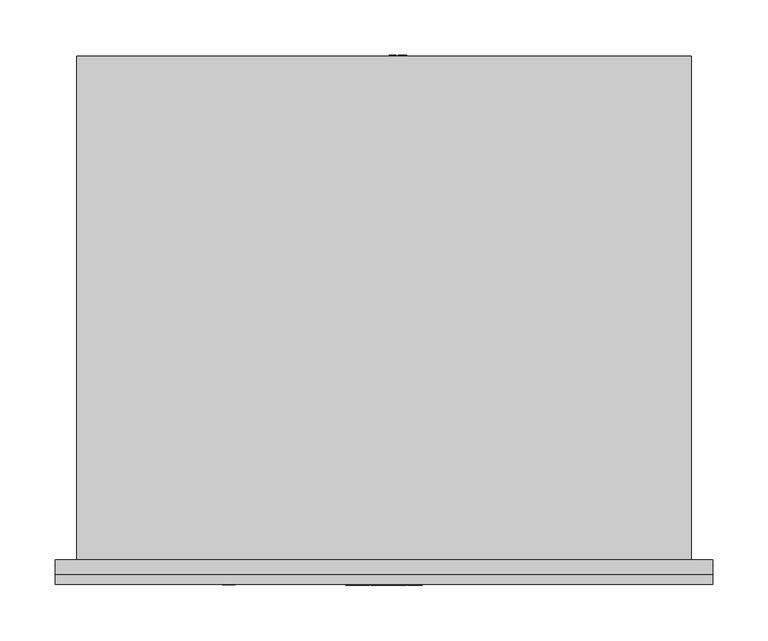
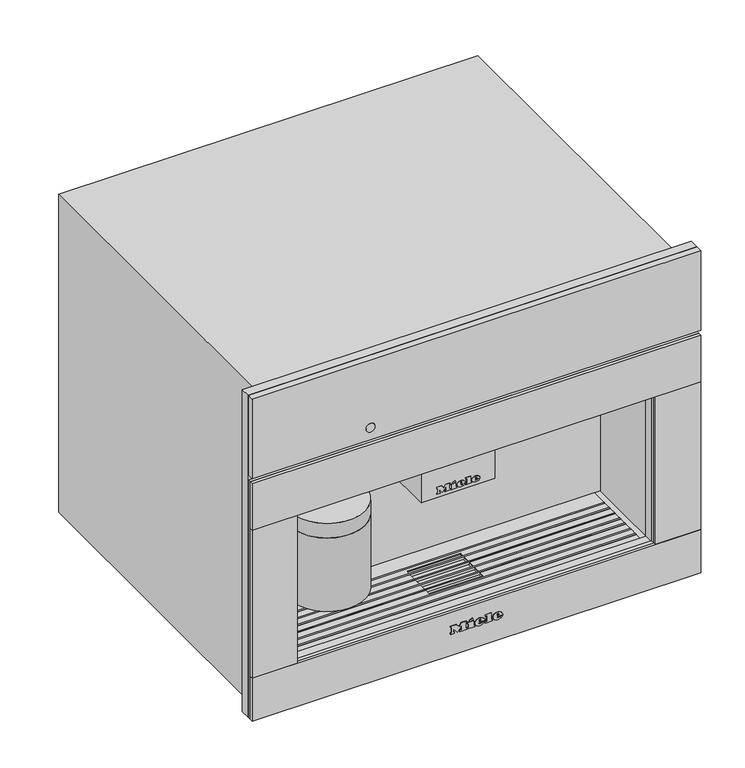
"""IFC4 building model written with IfcOpenShell, lengths in millimetres: proxy geometry, 11166510_PL_CVA7440_GRGR : 29744030_PL_11166510_CVA7440_GRGR."""

from ifc_helpers import new_model, si_unit, point, frame, frame_2d, origin, place, context, project, spatial, polyline, circle_curve, ellipse_curve, trimmed, segment, composite_curve, outline, extrude, faceted_brep, source, transform, mapped, element, save
from ifc_brep_helpers import plane_surface, cylinder_surface, revolved_surface, extruded_surface, advanced_brep


def specialty_equipment_c3889a7f(model_context):
    return source(origin(), model_context, "Body", "SolidModel", [
        extrude(outline(composite_curve([segment(trimmed(circle_curve(frame_2d((-14.0, 36.5)), 5.0), [point((-9.0, 36.5))], [point((-19.0, 36.5))], False, "CARTESIAN"), True, "CONTINUOUS"), segment(trimmed(circle_curve(frame_2d((-14.0, 36.5)), 5.0), [point((-19.0, 36.5))], [point((-9.0, 36.5))], False, "CARTESIAN"), True, "CONTINUOUS")], self_intersect=False)), frame((0.0, 0.0, 193.0), z_axis=(0.0, 0.0, 1.0), x_axis=(1.0, 0.0, 0.0)), (0.0, 0.0, 1.0), 5.0),
        extrude(outline(composite_curve([segment(trimmed(circle_curve(frame_2d((14.0, 36.5)), 5.0), [point((19.0, 36.5))], [point((9.0, 36.5))], False, "CARTESIAN"), True, "CONTINUOUS"), segment(trimmed(circle_curve(frame_2d((14.0, 36.5)), 5.0), [point((9.0, 36.5))], [point((19.0, 36.5))], False, "CARTESIAN"), True, "CONTINUOUS")], self_intersect=False)), frame((0.0, 0.0, 193.0), z_axis=(0.0, 0.0, 1.0), x_axis=(1.0, 0.0, 0.0)), (0.0, 0.0, 1.0), 5.0),
        extrude(outline(composite_curve([segment(trimmed(circle_curve(frame_2d((-156.5, 49.5)), 50.0), [point((-106.5, 49.5))], [point((-206.5, 49.5))], False, "CARTESIAN"), True, "CONTINUOUS"), segment(trimmed(circle_curve(frame_2d((-156.5, 49.5)), 50.0), [point((-206.5, 49.5))], [point((-106.5, 49.5))], False, "CARTESIAN"), True, "CONTINUOUS")], self_intersect=False)), frame((0.0, 0.0, 100.0), z_axis=(0.0, 0.0, 1.0), x_axis=(1.0, 0.0, 0.0)), (0.0, 0.0, 1.0), 103.0),
        extrude(outline(polyline([(-49.0, 95.0), (49.0, 95.0), (49.0, 20.0), (-49.0, 20.0), (-49.0, 95.0)])), frame((0.0, 0.0, 198.0), z_axis=(0.0, 0.0, 1.0), x_axis=(1.0, 0.0, 0.0)), (0.0, 0.0, 1.0), 75.0),
        extrude(outline(polyline([(455.5, 297.5), (455.5, -297.5), (4.0, -297.5), (4.0, 297.5), (455.5, 297.5)]), holes=[polyline([(273.0, 237.5), (63.0, 237.5), (63.0, -237.5), (273.0, -237.5), (273.0, 237.5)])]), frame((0.0, -13.0, 0.0), z_axis=(0.0, 1.0, 0.0), x_axis=(0.0, 0.0, 1.0)), (0.0, 0.0, 1.0), 13.0),
        extrude(outline(polyline([(97.0, 20.4012141), (107.045631, 20.4012141), (107.045631, 13.1809168), (105.7899271, 13.1809168), (105.7899271, 19.1455102), (102.8076304, 19.1455102), (102.8076304, 13.4948427), (101.5519266, 13.4948427), (101.5519266, 19.1455102), (98.2557039, 19.1455102), (98.2557039, 13.0239538), (97.0, 13.0239538), (97.0, 20.4012141)])), frame((0.0, 456.0, 0.0), z_axis=(0.0, 1.0, 0.0), x_axis=(0.0, 0.0, 1.0)), (0.0, 0.0, 1.0), 1.0),
        extrude(outline(polyline([(97.0, 11.140398), (107.045631, 11.140398), (107.045631, 9.8846941), (98.2557039, 9.8846941), (98.2557039, 4.8618786), (97.0, 4.8618786), (97.0, 11.140398)])), frame((0.0, 456.0, 0.0), z_axis=(0.0, 1.0, 0.0), x_axis=(0.0, 0.0, 1.0)), (0.0, 0.0, 1.0), 1.0),
        advanced_brep(
        [(55.0, 425.5, 102.0), (55.0, 410.5, 102.0), (20.5239538, 425.5, 102.0), (5.5239538, 410.5, 102.0), (20.5239538, 456.0, 102.0), (5.5239538, 456.0, 102.0)],
        [
            (0, 1, circle_curve(frame((55.0, 418.0, 102.0), z_axis=(1.0, 0.0, 0.0), x_axis=(0.0, -1.0, 0.0)), 7.5)),
            (1, 0, circle_curve(frame((55.0, 418.0, 102.0), z_axis=(1.0, 0.0, 0.0), x_axis=(0.0, -1.0, 0.0)), 7.5)),
            (0, 2),
            (2, 3, ellipse_curve(frame((13.0239538, 418.0, 102.0), z_axis=(0.7071067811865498, -0.7071067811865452, 0.0), x_axis=(0.7071067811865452, 0.7071067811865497, 0.0)), 10.6066017, 7.5)),
            (3, 1),
            (3, 2, ellipse_curve(frame((13.0239538, 418.0, 102.0), z_axis=(0.7071067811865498, -0.7071067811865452, 0.0), x_axis=(0.7071067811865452, 0.7071067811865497, 0.0)), 10.6066017, 7.5)),
            (4, 5, circle_curve(frame((13.0239538, 456.0, 102.0), z_axis=(0.0, 1.0, 0.0), x_axis=(-1.0, 0.0, 0.0)), 7.5)),
            (5, 4, circle_curve(frame((13.0239538, 456.0, 102.0), z_axis=(0.0, 1.0, 0.0), x_axis=(-1.0, 0.0, 0.0)), 7.5)),
            (2, 4),
            (5, 3),
        ],
        [
            plane_surface(frame((55.0, 418.0, 102.0), z_axis=(1.0, 0.0, 0.0), x_axis=(0.0, 0.0, 1.0))),
            cylinder_surface(frame((55.0, 418.0, 102.0), z_axis=(1.0, 0.0, 0.0), x_axis=(0.0, -1.0, 0.0)), 7.5),
            plane_surface(frame((13.0239538, 456.0, 102.0), z_axis=(0.0, 1.0, 0.0), x_axis=(0.0, 0.0, 1.0))),
            cylinder_surface(frame((13.0239538, 418.0, 102.0), z_axis=(0.0, -1.0, 0.0), x_axis=(-1.0, 0.0, 0.0)), 7.5),
        ],
        [
            (0, [[1, 2]]),
            (1, [[-1, 3, 4, 5]]),
            (1, [[-2, -5, 6, -3]]),
            (2, [[7, 8]]),
            (3, [[-4, 9, -8, 10]]),
            (3, [[-6, -10, -7, -9]]),
        ],
    ),
        advanced_brep(
        [(-110.0, 49.5, 252.0), (-203.0, 49.5, 252.0), (-206.5, 49.5, 223.5), (-106.5, 49.5, 223.5), (-110.0, 49.5, 273.0), (-203.0, 49.5, 273.0), (-156.5, 49.5, 273.0), (-106.5, 49.5, 203.0), (-206.5, 49.5, 203.0), (-156.5, 49.5, 203.0)],
        [
            (0, 1, circle_curve(frame((-156.5, 49.5, 252.0), z_axis=(0.0, 0.0, -1.0), x_axis=(-1.0, 0.0, 0.0)), 46.5)),
            (1, 2, circle_curve(frame((-206.7961166, 49.5, 238.0012775), z_axis=(0.0, 1.0, 0.0), x_axis=(-1.0, 0.0, 0.0)), 14.5043005)),
            (2, 3, circle_curve(frame((-156.5, 49.5, 223.5), z_axis=(0.0, 0.0, 1.0), x_axis=(-1.0, 0.0, 0.0)), 50.0)),
            (3, 0, circle_curve(frame((-106.2038834, 49.5, 238.0012775), z_axis=(0.0, 1.0, 0.0), x_axis=(1.0, 0.0, 0.0)), 14.5043005)),
            (4, 5, circle_curve(frame((-156.5, 49.5, 273.0), z_axis=(0.0, 0.0, -1.0), x_axis=(-1.0, 0.0, 0.0)), 46.5)),
            (5, 1),
            (0, 4),
            (6, 4),
            (4, 5, circle_curve(frame((-156.5, 49.5, 273.0), z_axis=(0.0, 0.0, 1.0), x_axis=(-1.0, 0.0, 0.0)), 46.5)),
            (5, 6),
            (7, 8, circle_curve(frame((-156.5, 49.5, 203.0), z_axis=(0.0, 0.0, -1.0), x_axis=(-1.0, 0.0, 0.0)), 50.0)),
            (8, 9),
            (9, 7),
            (8, 7, circle_curve(frame((-156.5, 49.5, 203.0), z_axis=(0.0, 0.0, -1.0), x_axis=(-1.0, 0.0, 0.0)), 50.0)),
            (2, 8),
            (7, 3),
            (2, 3, circle_curve(frame((-156.5, 49.5, 223.5), z_axis=(0.0, 0.0, -1.0), x_axis=(-1.0, 0.0, 0.0)), 50.0)),
            (1, 0, circle_curve(frame((-156.5, 49.5, 252.0), z_axis=(0.0, 0.0, -1.0), x_axis=(-1.0, 0.0, 0.0)), 46.5)),
        ],
        [
            revolved_surface(trimmed(ellipse_curve(frame((-206.7961166, 49.5, 238.0012775), z_axis=(0.0, -1.0, 0.0), x_axis=(-1.0, 0.0, 0.0)), 14.5043005, 14.5043005), [point((-206.5, 49.5, 223.5))], [point((-203.0, 49.5, 252.0))], True, "CARTESIAN"), (-156.5, 49.5, 388.7361736), (0.0, 0.0, 1.0)),
            cylinder_surface(frame((-156.5, 49.5, 388.7361736), z_axis=(0.0, 0.0, 1.0), x_axis=(-1.0, 0.0, 0.0)), 46.5),
            plane_surface(frame((-156.5, 49.5, 273.0), z_axis=(0.0, 0.0, 1.0), x_axis=(-1.0, 0.0, 0.0))),
            plane_surface(frame((-156.5, 49.5, 203.0), z_axis=(0.0, 0.0, -1.0), x_axis=(-1.0, 0.0, 0.0))),
            cylinder_surface(frame((-156.5, 49.5, 388.7361736), z_axis=(0.0, 0.0, 1.0), x_axis=(-1.0, 0.0, 0.0)), 50.0),
        ],
        [
            (0, [[1, 2, 3, 4]]),
            (1, [[5, 6, -1, 7]]),
            (2, [[8, 9, 10]]),
            (3, [[11, 12, 13]]),
            (3, [[14, -13, -12]]),
            (4, [[-3, 15, -11, 16]]),
            (4, [[17, -16, -14, -15]]),
            (0, [[18, -4, -17, -2]]),
            (1, [[-9, -7, -18, -6]]),
            (2, [[-10, -5, -8]]),
        ],
    ),
        faceted_brep([(229.5, 82.0925571, 60.0), (229.5, 80.0925571, 60.0), (-229.5, 80.0925571, 60.0), (-229.5, 82.0925571, 60.0), (229.5, 70.0550731, 60.0), (229.5, 68.0550731, 60.0), (-229.5, 68.0550731, 60.0), (-229.5, 70.0550731, 60.0), (229.5, 58.0175891, 60.0), (229.5, 56.0175891, 60.0), (-229.5, 56.0175891, 60.0), (-229.5, 58.0175891, 60.0), (229.5, 45.9801052, 60.0), (229.5, 43.9801052, 60.0), (-229.5, 43.9801052, 60.0), (-229.5, 45.9801052, 60.0), (229.5, 33.9426212, 60.0), (229.5, 31.9426212, 60.0), (-229.5, 31.9426212, 60.0), (-229.5, 33.9426212, 60.0), (229.5, 21.9776522, 60.0), (229.5, 19.9776522, 60.0), (-229.5, 19.9776522, 60.0), (-229.5, 21.9776522, 60.0), (229.5, 10.0, 60.0), (229.5, 8.0, 60.0), (-229.5, 8.0, 60.0), (-229.5, 10.0, 60.0), (-229.5, 45.9801052, 62.0), (-36.0, 45.9801052, 62.0), (-36.0, 45.9801052, 63.0), (-229.5, 45.9801052, 63.0), (-229.5, 45.9801052, 63.5), (229.5, 45.9801052, 63.5), (229.5, 45.9801052, 63.0), (36.0, 45.9801052, 63.0), (36.0, 45.9801052, 62.0), (229.5, 45.9801052, 62.0), (229.5, 19.9776522, 62.0), (229.5, 10.0, 62.0), (-229.5, 10.0, 62.0), (-229.5, 19.9776522, 62.0), (229.5, 43.9801052, 62.0), (229.5, 33.9426212, 62.0), (36.0, 33.9426212, 62.0), (36.0, 43.9801052, 62.0), (229.5, 56.0175891, 62.0), (36.0, 56.0175891, 62.0), (229.5, 68.0550731, 62.0), (229.5, 58.0175891, 62.0), (36.0, 58.0175891, 62.0), (36.0, 68.0550731, 62.0), (-229.5, 33.9426212, 62.0), (-229.5, 43.9801052, 62.0), (-36.0, 43.9801052, 62.0), (-36.0, 33.9426212, 62.0), (-229.5, 56.0175891, 62.0), (-36.0, 56.0175891, 62.0), (-229.5, 58.0175891, 62.0), (-229.5, 68.0550731, 62.0), (-36.0, 68.0550731, 62.0), (-36.0, 58.0175891, 62.0), (-229.5, 104.5, 62.0), (229.5, 104.5, 62.0), (229.5, 82.0925571, 62.0), (-229.5, 82.0925571, 62.0), (36.0, 76.0, 62.0), (-36.0, 76.0, 62.0), (-36.0, 70.0550731, 62.0), (-229.5, 70.0550731, 62.0), (-229.5, 80.0925571, 62.0), (229.5, 80.0925571, 62.0), (229.5, 70.0550731, 62.0), (36.0, 70.0550731, 62.0), (229.5, 0.0, 62.0), (-229.5, 0.0, 62.0), (-229.5, 8.0, 62.0), (229.5, 8.0, 62.0), (-36.0, 25.0, 62.0), (36.0, 25.0, 62.0), (36.0, 31.9426212, 62.0), (229.5, 31.9426212, 62.0), (229.5, 21.9776522, 62.0), (-229.5, 21.9776522, 62.0), (-229.5, 31.9426212, 62.0), (-36.0, 31.9426212, 62.0), (229.5, 104.5, 63.0), (-229.5, 104.5, 63.0), (-229.5, 82.0925571, 63.0), (229.5, 82.0925571, 63.0), (-229.5, 0.0, 63.0), (229.5, 0.0, 63.0), (229.5, 8.0, 63.0), (-229.5, 8.0, 63.0), (-36.0, 76.0, 63.0), (36.0, 76.0, 63.0), (36.0, 70.0550731, 63.0), (229.5, 70.0550731, 63.0), (229.5, 80.0925571, 63.0), (-229.5, 80.0925571, 63.0), (-229.5, 70.0550731, 63.0), (-36.0, 70.0550731, 63.0), (36.0, 25.0, 63.0), (-36.0, 25.0, 63.0), (-36.0, 31.9426212, 63.0), (-229.5, 31.9426212, 63.0), (-229.5, 21.9776522, 63.0), (229.5, 21.9776522, 63.0), (229.5, 31.9426212, 63.0), (36.0, 31.9426212, 63.0), (-229.5, 19.9776522, 63.0), (-229.5, 10.0, 63.0), (229.5, 10.0, 63.0), (229.5, 19.9776522, 63.0), (-229.5, 43.9801052, 63.0), (-229.5, 33.9426212, 63.0), (-36.0, 33.9426212, 63.0), (-36.0, 43.9801052, 63.0), (-229.5, 56.0175891, 63.0), (-36.0, 56.0175891, 63.0), (-229.5, 68.0550731, 63.0), (-229.5, 58.0175891, 63.0), (-36.0, 58.0175891, 63.0), (-36.0, 68.0550731, 63.0), (229.5, 33.9426212, 63.0), (229.5, 43.9801052, 63.0), (36.0, 43.9801052, 63.0), (36.0, 33.9426212, 63.0), (229.5, 56.0175891, 63.0), (36.0, 56.0175891, 63.0), (229.5, 58.0175891, 63.0), (229.5, 68.0550731, 63.0), (36.0, 68.0550731, 63.0), (36.0, 58.0175891, 63.0), (-229.5, 8.0, 63.5), (-229.5, 10.0, 63.5), (-229.5, 19.9776522, 63.5), (-229.5, 21.9776522, 63.5), (-229.5, 31.9426212, 63.5), (-229.5, 33.9426212, 63.5), (-229.5, 43.9801052, 63.5), (-229.5, 56.0175891, 63.5), (-229.5, 58.0175891, 63.5), (-229.5, 68.0550731, 63.5), (-229.5, 70.0550731, 63.5), (-229.5, 80.0925571, 63.5), (-229.5, 82.0925571, 63.5), (229.5, 82.0925571, 63.5), (229.5, 80.0925571, 63.5), (229.5, 70.0550731, 63.5), (229.5, 68.0550731, 63.5), (229.5, 58.0175891, 63.5), (229.5, 56.0175891, 63.5), (229.5, 43.9801052, 63.5), (229.5, 33.9426212, 63.5), (229.5, 31.9426212, 63.5), (229.5, 21.9776522, 63.5), (229.5, 19.9776522, 63.5), (229.5, 10.0, 63.5), (229.5, 8.0, 63.5)], [[[0, 1, 2, 3]], [[4, 5, 6, 7]], [[8, 9, 10, 11]], [[12, 13, 14, 15]], [[16, 17, 18, 19]], [[20, 21, 22, 23]], [[24, 25, 26, 27]], [[12, 15, 28, 29, 30, 31, 32, 33, 34, 35, 36, 37]], [[38, 39, 40, 41]], [[42, 43, 44, 45]], [[46, 37, 36, 47]], [[48, 49, 50, 51]], [[52, 53, 54, 55]], [[28, 56, 57, 29]], [[58, 59, 60, 61]], [[62, 63, 64, 65]], [[66, 67, 68, 69, 70, 71, 72, 73]], [[74, 75, 76, 77]], [[78, 79, 80, 81, 82, 83, 84, 85]], [[86, 87, 88, 89]], [[90, 91, 92, 93]], [[94, 95, 96, 97, 98, 99, 100, 101]], [[102, 103, 104, 105, 106, 107, 108, 109]], [[110, 111, 112, 113]], [[114, 115, 116, 117]], [[118, 31, 30, 119]], [[120, 121, 122, 123]], [[124, 125, 126, 127]], [[34, 128, 129, 35]], [[130, 131, 132, 133]], [[63, 62, 87, 86]], [[87, 62, 65, 3, 2, 70, 69, 7, 6, 59, 58, 11, 10, 56, 28, 15, 14, 53, 52, 19, 18, 84, 83, 23, 22, 41, 40, 27, 26, 76, 75, 90, 93, 134, 135, 111, 110, 136, 137, 106, 105, 138, 139, 115, 114, 140, 32, 31, 118, 141, 142, 121, 120, 143, 144, 100, 99, 145, 146, 88]], [[75, 74, 91, 90]], [[63, 86, 89, 147, 148, 98, 97, 149, 150, 131, 130, 151, 152, 128, 34, 33, 153, 125, 124, 154, 155, 108, 107, 156, 157, 113, 112, 158, 159, 92, 91, 74, 77, 25, 24, 39, 38, 21, 20, 82, 81, 17, 16, 43, 42, 13, 12, 37, 46, 9, 8, 49, 48, 5, 4, 72, 71, 1, 0, 64]], [[66, 95, 94, 67]], [[55, 54, 117, 116]], [[29, 57, 119, 30]], [[61, 60, 123, 122]], [[67, 94, 101, 68]], [[103, 78, 85, 104]], [[78, 103, 102, 79]], [[45, 44, 127, 126]], [[47, 36, 35, 129]], [[51, 50, 133, 132]], [[95, 66, 73, 96]], [[79, 102, 109, 80]], [[158, 135, 134, 159]], [[156, 137, 136, 157]], [[154, 139, 138, 155]], [[33, 32, 140, 153]], [[151, 142, 141, 152]], [[149, 144, 143, 150]], [[147, 146, 145, 148]], [[24, 27, 40, 39]], [[135, 158, 112, 111]], [[26, 25, 77, 76]], [[159, 134, 93, 92]], [[20, 23, 83, 82]], [[137, 156, 107, 106]], [[22, 21, 38, 41]], [[157, 136, 110, 113]], [[16, 19, 52, 55, 116, 115, 139, 154, 124, 127, 44, 43]], [[18, 17, 81, 80, 109, 108, 155, 138, 105, 104, 85, 84]], [[14, 13, 42, 45, 126, 125, 153, 140, 114, 117, 54, 53]], [[8, 11, 58, 61, 122, 121, 142, 151, 130, 133, 50, 49]], [[10, 9, 46, 47, 129, 128, 152, 141, 118, 119, 57, 56]], [[4, 7, 69, 68, 101, 100, 144, 149, 97, 96, 73, 72]], [[6, 5, 48, 51, 132, 131, 150, 143, 120, 123, 60, 59]], [[0, 3, 65, 64]], [[146, 147, 89, 88]], [[2, 1, 71, 70]], [[148, 145, 99, 98]]]),
        faceted_brep([(-278.0, 456.0, 0.0), (-278.0, 0.0, 0.0), (-278.0, 0.0, 446.0), (-278.0, 456.0, 446.0), (278.0, 456.0, 0.0), (278.0, 456.0, 446.0), (278.0, 0.0, 446.0), (278.0, 0.0, 0.0), (55.0, 456.0, 133.0), (-22.0, 456.0, 133.0), (-22.0, 456.0, 89.0), (35.0, 456.0, 66.0), (55.0, 456.0, 66.0), (-36.0, 76.0, 58.0), (36.0, 76.0, 58.0), (36.0, 76.0, 62.0), (-36.0, 76.0, 62.0), (36.0, 25.0, 58.0), (-36.0, 25.0, 58.0), (-36.0, 25.0, 62.0), (36.0, 25.0, 62.0), (237.5, 0.0, 273.0), (237.5, 0.0, 63.0), (229.5, 0.0, 63.0), (229.5, 0.0, 62.0), (-229.5, 0.0, 62.0), (-229.5, 0.0, 63.0), (-237.5, 0.0, 63.0), (-237.5, 0.0, 273.0), (237.5, 104.5, 273.0), (-237.5, 104.5, 273.0), (-237.5, 104.5, 63.0), (-229.5, 104.5, 63.0), (-229.5, 104.5, 62.0), (229.5, 104.5, 62.0), (229.5, 104.5, 63.0), (237.5, 104.5, 63.0), (-22.0, 400.0, 133.0), (55.0, 400.0, 133.0), (55.0, 400.0, 66.0), (35.0, 400.0, 66.0), (-22.0, 400.0, 89.0)], [[[0, 1, 2, 3]], [[4, 5, 6, 7]], [[0, 3, 5, 4], [8, 9, 10, 11, 12]], [[13, 14, 15, 16]], [[17, 18, 19, 20]], [[3, 2, 6, 5]], [[2, 1, 7, 6], [21, 22, 23, 24, 25, 26, 27, 28]], [[1, 0, 4, 7]], [[29, 30, 31, 32, 33, 34, 35, 36]], [[29, 36, 22, 21]], [[22, 36, 35, 23]], [[31, 27, 26, 32]], [[31, 30, 28, 27]], [[30, 29, 21, 28]], [[34, 33, 25, 24], [16, 15, 20, 19]], [[25, 33, 32, 26]], [[34, 24, 23, 35]], [[14, 13, 18, 17]], [[18, 13, 16, 19]], [[14, 17, 20, 15]], [[37, 38, 39, 40, 41]], [[38, 37, 9, 8]], [[39, 38, 8, 12]], [[40, 39, 12, 11]], [[41, 40, 11, 10]], [[37, 41, 10, 9]]]),
        advanced_brep(
        [(27.088, -23.0, 36.7018), (27.088, -23.0, 37.8532), (34.7146, -23.0, 37.8532), (21.445, -23.0, 37.8532), (24.58, -23.0, 34.0), (34.5208, -23.0, 36.7018), (31.078, -23.0, 36.7018), (28.3648, -23.0, 35.425), (27.088, -23.0, 39.3124), (27.088, -23.0, 40.555), (29.0374, -23.0, 40.555), (29.0374, -23.0, 39.3124), (27.088, -22.0, 36.7018), (28.3648, -22.0, 35.425), (31.078, -22.0, 36.7018), (34.5208, -22.0, 36.7018), (24.58, -22.0, 34.0), (21.445, -22.0, 37.8532), (34.7146, -22.0, 37.8532), (27.088, -22.0, 37.8532), (27.088, -22.0, 39.3124), (29.0374, -22.0, 39.3124), (29.0374, -22.0, 40.555), (27.088, -22.0, 40.555)],
        [
            (0, 1),
            (1, 2),
            (2, 3, ellipse_curve(frame((28.0798, -23.0, 37.8532), z_axis=(0.0, -1.0, 0.0), x_axis=(-1.0, 0.0, 0.0)), 6.6348, 5.4834)),
            (3, 4, circle_curve(frame((25.8568622, -23.0, 38.2408), z_axis=(0.0, -1.0, 0.0), x_axis=(0.0, 0.0, -1.0)), 4.4288556)),
            (4, 5, circle_curve(frame((27.9469808, -23.0, 41.2504), z_axis=(0.0, -1.0, 0.0), x_axis=(0.0, 0.0, -1.0)), 7.9940516)),
            (5, 6),
            (6, 7, circle_curve(frame((28.9220588, -23.0, 37.762), z_axis=(0.0, 1.0, 0.0), x_axis=(0.0, 0.0, -1.0)), 2.4025208)),
            (7, 0, circle_curve(frame((28.3648, -23.0, 36.7018), z_axis=(0.0, 1.0, 0.0), x_axis=(0.0, 0.0, -1.0)), 1.2768)),
            (8, 9),
            (9, 10, circle_curve(frame((28.0627, -23.0, 40.555), z_axis=(0.0, 1.0, 0.0), x_axis=(0.0, 0.0, -1.0)), 0.9747)),
            (10, 11),
            (11, 8),
            (12, 13, circle_curve(frame((28.3648, -22.0, 36.7018), z_axis=(0.0, -1.0, 0.0), x_axis=(0.0, 0.0, -1.0)), 1.2768)),
            (13, 14, circle_curve(frame((28.9220588, -22.0, 37.762), z_axis=(0.0, -1.0, 0.0), x_axis=(0.0, 0.0, -1.0)), 2.4025208)),
            (14, 15),
            (15, 16, circle_curve(frame((27.9469808, -22.0, 41.2504), z_axis=(0.0, 1.0, 0.0), x_axis=(0.0, 0.0, -1.0)), 7.9940516)),
            (16, 17, circle_curve(frame((25.8568622, -22.0, 38.2408), z_axis=(0.0, 1.0, 0.0), x_axis=(0.0, 0.0, -1.0)), 4.4288556)),
            (17, 18, ellipse_curve(frame((28.0798, -22.0, 37.8532), z_axis=(0.0, 1.0, 0.0), x_axis=(-1.0, 0.0, 0.0)), 6.6348, 5.4834)),
            (18, 19),
            (19, 12),
            (20, 21),
            (21, 22),
            (22, 23, circle_curve(frame((28.0627, -22.0, 40.555), z_axis=(0.0, -1.0, 0.0), x_axis=(0.0, 0.0, -1.0)), 0.9747)),
            (23, 20),
            (0, 12),
            (19, 1),
            (18, 2),
            (5, 15),
            (14, 6),
            (17, 3),
            (13, 7),
            (16, 4),
            (8, 20),
            (23, 9),
            (22, 10),
            (21, 11),
        ],
        [
            plane_surface(frame((27.088, -23.0, 37.8532), z_axis=(0.0, -1.0, 0.0), x_axis=(0.0, 0.0, 1.0))),
            plane_surface(frame((27.088, -22.0, 37.8532), z_axis=(0.0, 1.0, 0.0), x_axis=(0.0, 0.0, -1.0))),
            plane_surface(frame((27.088, -23.0, 36.7018), z_axis=(1.0, 0.0, 0.0), x_axis=(0.0, 1.0, 0.0))),
            plane_surface(frame((27.088, -23.0, 37.8532), z_axis=(0.0, 0.0, -1.0), x_axis=(0.0, 1.0, 0.0))),
            plane_surface(frame((34.5208, -23.0, 36.7018), z_axis=(0.0, 0.0, 1.0), x_axis=(0.0, 1.0, 0.0))),
            extruded_surface(trimmed(ellipse_curve(frame((28.0798, -21.0, 37.8532), z_axis=(0.0, -1.0, 0.0), x_axis=(-1.0, 0.0, 0.0)), 6.6348, 5.4834), [point((34.7146, -21.0, 37.8532))], [point((21.445, -21.0, 37.8532))], True, "CARTESIAN"), (0.0, -1.0, 0.0), 1.0),
            revolved_surface(polyline([(28.9220588, -22.0, 35.3594792), (28.9220588, -23.0, 35.3594792)]), (28.9220588, -22.0, 37.762), (0.0, 1.0, 0.0)),
            revolved_surface(polyline([(28.3648, -22.0, 35.425), (28.3648, -23.0, 35.425)]), (28.3648, -22.0, 36.7018), (0.0, 1.0, 0.0)),
            cylinder_surface(frame((25.8568622, -22.0, 38.2408), z_axis=(0.0, -1.0, 0.0), x_axis=(0.0, 0.0, -1.0)), 4.4288556),
            cylinder_surface(frame((27.9469808, -22.0, 41.2504), z_axis=(0.0, -1.0, 0.0), x_axis=(0.0, 0.0, -1.0)), 7.9940516),
            plane_surface(frame((27.088, -23.0, 39.3124), z_axis=(1.0, 0.0, 0.0), x_axis=(0.0, 1.0, 0.0))),
            revolved_surface(polyline([(28.0627, -22.0, 39.5803), (28.0627, -23.0, 39.5803)]), (28.0627, -22.0, 40.555), (0.0, 1.0, 0.0)),
            plane_surface(frame((29.0374, -23.0, 40.555), z_axis=(-1.0, 0.0, 0.0), x_axis=(0.0, 1.0, 0.0))),
            plane_surface(frame((29.0374, -23.0, 39.3124), z_axis=(0.0, 0.0, 1.0), x_axis=(0.0, 1.0, 0.0))),
        ],
        [
            (0, [[1, 2, 3, 4, 5, 6, 7, 8], [9, 10, 11, 12]]),
            (1, [[13, 14, 15, 16, 17, 18, 19, 20], [21, 22, 23, 24]]),
            (2, [[-1, 25, -20, 26]]),
            (3, [[-2, -26, -19, 27]]),
            (4, [[-6, 28, -15, 29]]),
            (5, [[-3, -27, -18, 30]]),
            (6, [[-7, -29, -14, 31]]),
            (7, [[-8, -31, -13, -25]]),
            (8, [[-4, -30, -17, 32]]),
            (9, [[-5, -32, -16, -28]]),
            (10, [[-9, 33, -24, 34]]),
            (11, [[-10, -34, -23, 35]]),
            (12, [[-11, -35, -22, 36]]),
            (13, [[-12, -36, -21, -33]]),
        ],
    ),
        advanced_brep(
        [(3.2962, -23.0, 36.7018), (3.2962, -23.0, 37.8532), (10.9228, -23.0, 37.8532), (-2.3468, -23.0, 37.8532), (0.7882, -23.0, 34.0), (10.729, -23.0, 36.7018), (7.2862, -23.0, 36.7018), (4.573, -23.0, 35.425), (3.2962, -23.0, 39.3124), (3.2962, -23.0, 40.555), (5.2456, -23.0, 40.555), (5.2456, -23.0, 39.3124), (3.2962, -22.0, 36.7018), (4.573, -22.0, 35.425), (7.2862, -22.0, 36.7018), (10.729, -22.0, 36.7018), (0.7882, -22.0, 34.0), (-2.3468, -22.0, 37.8532), (10.9228, -22.0, 37.8532), (3.2962, -22.0, 37.8532), (3.2962, -22.0, 39.3124), (5.2456, -22.0, 39.3124), (5.2456, -22.0, 40.555), (3.2962, -22.0, 40.555)],
        [
            (0, 1),
            (1, 2),
            (2, 3, ellipse_curve(frame((4.288, -23.0, 37.8532), z_axis=(0.0, -1.0, 0.0), x_axis=(-1.0, 0.0, 0.0)), 6.6348, 5.4834)),
            (3, 4, circle_curve(frame((2.0650622, -23.0, 38.2408), z_axis=(0.0, -1.0, 0.0), x_axis=(0.0, 0.0, -1.0)), 4.4288556)),
            (4, 5, circle_curve(frame((4.1551808, -23.0, 41.2504), z_axis=(0.0, -1.0, 0.0), x_axis=(0.0, 0.0, -1.0)), 7.9940516)),
            (5, 6),
            (6, 7, circle_curve(frame((5.1302588, -23.0, 37.762), z_axis=(0.0, 1.0, 0.0), x_axis=(0.0, 0.0, -1.0)), 2.4025208)),
            (7, 0, circle_curve(frame((4.573, -23.0, 36.7018), z_axis=(0.0, 1.0, 0.0), x_axis=(0.0, 0.0, -1.0)), 1.2768)),
            (8, 9),
            (9, 10, circle_curve(frame((4.2709, -23.0, 40.555), z_axis=(0.0, 1.0, 0.0), x_axis=(0.0, 0.0, -1.0)), 0.9747)),
            (10, 11),
            (11, 8),
            (12, 13, circle_curve(frame((4.573, -22.0, 36.7018), z_axis=(0.0, -1.0, 0.0), x_axis=(0.0, 0.0, -1.0)), 1.2768)),
            (13, 14, circle_curve(frame((5.1302588, -22.0, 37.762), z_axis=(0.0, -1.0, 0.0), x_axis=(0.0, 0.0, -1.0)), 2.4025208)),
            (14, 15),
            (15, 16, circle_curve(frame((4.1551808, -22.0, 41.2504), z_axis=(0.0, 1.0, 0.0), x_axis=(0.0, 0.0, -1.0)), 7.9940516)),
            (16, 17, circle_curve(frame((2.0650622, -22.0, 38.2408), z_axis=(0.0, 1.0, 0.0), x_axis=(0.0, 0.0, -1.0)), 4.4288556)),
            (17, 18, ellipse_curve(frame((4.288, -22.0, 37.8532), z_axis=(0.0, 1.0, 0.0), x_axis=(-1.0, 0.0, 0.0)), 6.6348, 5.4834)),
            (18, 19),
            (19, 12),
            (20, 21),
            (21, 22),
            (22, 23, circle_curve(frame((4.2709, -22.0, 40.555), z_axis=(0.0, -1.0, 0.0), x_axis=(0.0, 0.0, -1.0)), 0.9747)),
            (23, 20),
            (0, 12),
            (19, 1),
            (18, 2),
            (5, 15),
            (14, 6),
            (17, 3),
            (13, 7),
            (16, 4),
            (8, 20),
            (23, 9),
            (22, 10),
            (21, 11),
        ],
        [
            plane_surface(frame((3.2962, -23.0, 37.8532), z_axis=(0.0, -1.0, 0.0), x_axis=(0.0, 0.0, 1.0))),
            plane_surface(frame((3.2962, -22.0, 37.8532), z_axis=(0.0, 1.0, 0.0), x_axis=(0.0, 0.0, -1.0))),
            plane_surface(frame((3.2962, -23.0, 36.7018), z_axis=(1.0, 0.0, 0.0), x_axis=(0.0, 1.0, 0.0))),
            plane_surface(frame((3.2962, -23.0, 37.8532), z_axis=(0.0, 0.0, -1.0), x_axis=(0.0, 1.0, 0.0))),
            plane_surface(frame((10.729, -23.0, 36.7018), z_axis=(0.0, 0.0, 1.0), x_axis=(0.0, 1.0, 0.0))),
            extruded_surface(trimmed(ellipse_curve(frame((4.288, -21.0, 37.8532), z_axis=(0.0, -1.0, 0.0), x_axis=(-1.0, 0.0, 0.0)), 6.6348, 5.4834), [point((10.9228, -21.0, 37.8532))], [point((-2.3468, -21.0, 37.8532))], True, "CARTESIAN"), (0.0, -1.0, 0.0), 1.0),
            revolved_surface(polyline([(5.1302588, -22.0, 35.3594792), (5.1302588, -23.0, 35.3594792)]), (5.1302588, -22.0, 37.762), (0.0, 1.0, 0.0)),
            revolved_surface(polyline([(4.573, -22.0, 35.425), (4.573, -23.0, 35.425)]), (4.573, -22.0, 36.7018), (0.0, 1.0, 0.0)),
            cylinder_surface(frame((2.0650622, -22.0, 38.2408), z_axis=(0.0, -1.0, 0.0), x_axis=(0.0, 0.0, -1.0)), 4.4288556),
            cylinder_surface(frame((4.1551808, -22.0, 41.2504), z_axis=(0.0, -1.0, 0.0), x_axis=(0.0, 0.0, -1.0)), 7.9940516),
            plane_surface(frame((3.2962, -23.0, 39.3124), z_axis=(1.0, 0.0, 0.0), x_axis=(0.0, 1.0, 0.0))),
            revolved_surface(polyline([(4.2709, -22.0, 39.5803), (4.2709, -23.0, 39.5803)]), (4.2709, -22.0, 40.555), (0.0, 1.0, 0.0)),
            plane_surface(frame((5.2456, -23.0, 40.555), z_axis=(-1.0, 0.0, 0.0), x_axis=(0.0, 1.0, 0.0))),
            plane_surface(frame((5.2456, -23.0, 39.3124), z_axis=(0.0, 0.0, 1.0), x_axis=(0.0, 1.0, 0.0))),
        ],
        [
            (0, [[1, 2, 3, 4, 5, 6, 7, 8], [9, 10, 11, 12]]),
            (1, [[13, 14, 15, 16, 17, 18, 19, 20], [21, 22, 23, 24]]),
            (2, [[-1, 25, -20, 26]]),
            (3, [[-2, -26, -19, 27]]),
            (4, [[-6, 28, -15, 29]]),
            (5, [[-3, -27, -18, 30]]),
            (6, [[-7, -29, -14, 31]]),
            (7, [[-8, -31, -13, -25]]),
            (8, [[-4, -30, -17, 32]]),
            (9, [[-5, -32, -16, -28]]),
            (10, [[-9, 33, -24, 34]]),
            (11, [[-10, -34, -23, 35]]),
            (12, [[-11, -35, -22, 36]]),
            (13, [[-12, -36, -21, -33]]),
        ],
    ),
        extrude(outline(polyline([(44.7274, -9.164), (42.8806, -8.2976), (44.6818, -4.433), (46.5286, -5.288), (44.7274, -9.164)])), frame((0.0, -23.0, 0.0), z_axis=(0.0, 1.0, 0.0), x_axis=(0.0, 0.0, 1.0)), (0.0, 0.0, 1.0), 1.0),
        extrude(outline(polyline([(42.6298, -11.9798), (40.5892, -11.9798), (40.5892, -10.6232), (35.9152, -10.6232), (35.9152, -11.9798), (34.0, -11.9798), (34.0, -2.9852), (35.9152, -2.9852), (35.9152, -4.3076), (42.6298, -4.3076), (42.6298, -11.9798)])), frame((0.0, -23.0, 0.0), z_axis=(0.0, 1.0, 0.0), x_axis=(0.0, 0.0, 1.0)), (0.0, 0.0, 1.0), 1.0),
        extrude(outline(polyline([(43.5418, 11.5612), (43.5418, 12.9292), (35.9152, 12.9292), (35.9152, 11.5612), (34.0, 11.5612), (34.0, 20.8066), (35.9152, 20.8066), (35.9152, 19.4044), (45.4, 19.4044), (45.4, 11.5612), (43.5418, 11.5612)])), frame((0.0, -23.0, 0.0), z_axis=(0.0, 1.0, 0.0), x_axis=(0.0, 0.0, 1.0)), (0.0, 0.0, 1.0), 1.0),
        extrude(outline(polyline([(43.5418, -34.7), (43.5418, -33.3206), (35.9152, -33.3206), (35.9152, -34.7), (34.0, -34.7), (34.0, -29.684), (35.9152, -29.684), (35.9152, -31.052), (40.7429247, -31.052), (34.0, -25.9562), (40.9402223, -20.8376), (35.9152, -20.8376), (35.9152, -22.2398), (34.0, -22.2398), (34.0, -13.1426), (35.9152, -13.1426), (35.9152, -14.5904), (43.5418, -14.5904), (43.5418, -13.1426), (45.4, -13.1426), (45.4, -20.0852), (41.125, -23.414), (45.4, -26.7542), (45.4, -34.7), (43.5418, -34.7)])), frame((0.0, -23.0, 0.0), z_axis=(0.0, 1.0, 0.0), x_axis=(0.0, 0.0, 1.0)), (0.0, 0.0, 1.0), 1.0),
        advanced_brep(
        [(22.348, 19.0, 205.5278), (22.348, 19.0, 206.4772), (28.6366, 19.0, 206.4772), (17.695, 19.0, 206.4772), (20.28, 19.0, 203.3), (28.4768, 19.0, 205.5278), (25.638, 19.0, 205.5278), (23.4008, 19.0, 204.475), (22.348, 19.0, 207.6804), (22.348, 19.0, 208.705), (23.9554, 19.0, 208.705), (23.9554, 19.0, 207.6804), (22.348, 20.0, 205.5278), (23.4008, 20.0, 204.475), (25.638, 20.0, 205.5278), (28.4768, 20.0, 205.5278), (20.28, 20.0, 203.3), (17.695, 20.0, 206.4772), (28.6366, 20.0, 206.4772), (22.348, 20.0, 206.4772), (22.348, 20.0, 207.6804), (23.9554, 20.0, 207.6804), (23.9554, 20.0, 208.705), (22.348, 20.0, 208.705)],
        [
            (0, 1),
            (1, 2),
            (2, 3, ellipse_curve(frame((23.1658, 19.0, 206.4772), z_axis=(0.0, -1.0, 0.0), x_axis=(-1.0, 0.0, 0.0)), 5.4708, 4.5214)),
            (3, 4, circle_curve(frame((21.3328513, 19.0, 206.7968), z_axis=(0.0, -1.0, 0.0), x_axis=(0.0, 0.0, -1.0)), 3.6518634)),
            (4, 5, circle_curve(frame((23.0562825, 19.0, 209.2784), z_axis=(0.0, -1.0, 0.0), x_axis=(0.0, 0.0, -1.0)), 6.5915864)),
            (5, 6),
            (6, 7, circle_curve(frame((23.8602941, 19.0, 206.402), z_axis=(0.0, 1.0, 0.0), x_axis=(0.0, 0.0, -1.0)), 1.981026)),
            (7, 0, circle_curve(frame((23.4008, 19.0, 205.5278), z_axis=(0.0, 1.0, 0.0), x_axis=(0.0, 0.0, -1.0)), 1.0528)),
            (8, 9),
            (9, 10, circle_curve(frame((23.1517, 19.0, 208.705), z_axis=(0.0, 1.0, 0.0), x_axis=(0.0, 0.0, -1.0)), 0.8037)),
            (10, 11),
            (11, 8),
            (12, 13, circle_curve(frame((23.4008, 20.0, 205.5278), z_axis=(0.0, -1.0, 0.0), x_axis=(0.0, 0.0, -1.0)), 1.0528)),
            (13, 14, circle_curve(frame((23.8602941, 20.0, 206.402), z_axis=(0.0, -1.0, 0.0), x_axis=(0.0, 0.0, -1.0)), 1.981026)),
            (14, 15),
            (15, 16, circle_curve(frame((23.0562825, 20.0, 209.2784), z_axis=(0.0, 1.0, 0.0), x_axis=(0.0, 0.0, -1.0)), 6.5915864)),
            (16, 17, circle_curve(frame((21.3328513, 20.0, 206.7968), z_axis=(0.0, 1.0, 0.0), x_axis=(0.0, 0.0, -1.0)), 3.6518634)),
            (17, 18, ellipse_curve(frame((23.1658, 20.0, 206.4772), z_axis=(0.0, 1.0, 0.0), x_axis=(-1.0, 0.0, 0.0)), 5.4708, 4.5214)),
            (18, 19),
            (19, 12),
            (20, 21),
            (21, 22),
            (22, 23, circle_curve(frame((23.1517, 20.0, 208.705), z_axis=(0.0, -1.0, 0.0), x_axis=(0.0, 0.0, -1.0)), 0.8037)),
            (23, 20),
            (0, 12),
            (19, 1),
            (18, 2),
            (5, 15),
            (14, 6),
            (17, 3),
            (13, 7),
            (16, 4),
            (8, 20),
            (23, 9),
            (22, 10),
            (21, 11),
        ],
        [
            plane_surface(frame((22.348, 19.0, 206.4772), z_axis=(0.0, -1.0, 0.0), x_axis=(0.0, 0.0, 1.0))),
            plane_surface(frame((22.348, 20.0, 206.4772), z_axis=(0.0, 1.0, 0.0), x_axis=(0.0, 0.0, -1.0))),
            plane_surface(frame((22.348, 19.0, 205.5278), z_axis=(1.0, 0.0, 0.0), x_axis=(0.0, 1.0, 0.0))),
            plane_surface(frame((22.348, 19.0, 206.4772), z_axis=(0.0, 0.0, -1.0), x_axis=(0.0, 1.0, 0.0))),
            plane_surface(frame((28.4768, 19.0, 205.5278), z_axis=(0.0, 0.0, 1.0), x_axis=(0.0, 1.0, 0.0))),
            extruded_surface(trimmed(ellipse_curve(frame((23.1658, 21.0, 206.4772), z_axis=(0.0, -1.0, 0.0), x_axis=(-1.0, 0.0, 0.0)), 5.4708, 4.5214), [point((28.6366, 21.0, 206.4772))], [point((17.695, 21.0, 206.4772))], True, "CARTESIAN"), (0.0, -1.0, 0.0), 1.0),
            revolved_surface(polyline([(23.8602941, 20.0, 204.420974), (23.8602941, 19.0, 204.420974)]), (23.8602941, 20.0, 206.402), (0.0, 1.0, 0.0)),
            revolved_surface(polyline([(23.4008, 20.0, 204.47500000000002), (23.4008, 19.0, 204.47500000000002)]), (23.4008, 20.0, 205.5278), (0.0, 1.0, 0.0)),
            cylinder_surface(frame((21.3328513, 20.0, 206.7968), z_axis=(0.0, -1.0, 0.0), x_axis=(0.0, 0.0, -1.0)), 3.6518634),
            cylinder_surface(frame((23.0562825, 20.0, 209.2784), z_axis=(0.0, -1.0, 0.0), x_axis=(0.0, 0.0, -1.0)), 6.5915864),
            plane_surface(frame((22.348, 19.0, 207.6804), z_axis=(1.0, 0.0, 0.0), x_axis=(0.0, 1.0, 0.0))),
            revolved_surface(polyline([(23.1517, 20.0, 207.90130000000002), (23.1517, 19.0, 207.90130000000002)]), (23.1517, 20.0, 208.705), (0.0, 1.0, 0.0)),
            plane_surface(frame((23.9554, 19.0, 208.705), z_axis=(-1.0, 0.0, 0.0), x_axis=(0.0, 1.0, 0.0))),
            plane_surface(frame((23.9554, 19.0, 207.6804), z_axis=(0.0, 0.0, 1.0), x_axis=(0.0, 1.0, 0.0))),
        ],
        [
            (0, [[1, 2, 3, 4, 5, 6, 7, 8], [9, 10, 11, 12]]),
            (1, [[13, 14, 15, 16, 17, 18, 19, 20], [21, 22, 23, 24]]),
            (2, [[-1, 25, -20, 26]]),
            (3, [[-2, -26, -19, 27]]),
            (4, [[-6, 28, -15, 29]]),
            (5, [[-3, -27, -18, 30]]),
            (6, [[-7, -29, -14, 31]]),
            (7, [[-8, -31, -13, -25]]),
            (8, [[-4, -30, -17, 32]]),
            (9, [[-5, -32, -16, -28]]),
            (10, [[-9, 33, -24, 34]]),
            (11, [[-10, -34, -23, 35]]),
            (12, [[-11, -35, -22, 36]]),
            (13, [[-12, -36, -21, -33]]),
        ],
    ),
        advanced_brep(
        [(2.7302, 19.0, 205.5278), (2.7302, 19.0, 206.4772), (9.0188, 19.0, 206.4772), (-1.9228, 19.0, 206.4772), (0.6622, 19.0, 203.3), (8.859, 19.0, 205.5278), (6.0202, 19.0, 205.5278), (3.783, 19.0, 204.475), (2.7302, 19.0, 207.6804), (2.7302, 19.0, 208.705), (4.3376, 19.0, 208.705), (4.3376, 19.0, 207.6804), (2.7302, 20.0, 205.5278), (3.783, 20.0, 204.475), (6.0202, 20.0, 205.5278), (8.859, 20.0, 205.5278), (0.6622, 20.0, 203.3), (-1.9228, 20.0, 206.4772), (9.0188, 20.0, 206.4772), (2.7302, 20.0, 206.4772), (2.7302, 20.0, 207.6804), (4.3376, 20.0, 207.6804), (4.3376, 20.0, 208.705), (2.7302, 20.0, 208.705)],
        [
            (0, 1),
            (1, 2),
            (2, 3, ellipse_curve(frame((3.548, 19.0, 206.4772), z_axis=(0.0, -1.0, 0.0), x_axis=(-1.0, 0.0, 0.0)), 5.4708, 4.5214)),
            (3, 4, circle_curve(frame((1.7150513, 19.0, 206.7968), z_axis=(0.0, -1.0, 0.0), x_axis=(0.0, 0.0, -1.0)), 3.6518634)),
            (4, 5, circle_curve(frame((3.4384825, 19.0, 209.2784), z_axis=(0.0, -1.0, 0.0), x_axis=(0.0, 0.0, -1.0)), 6.5915864)),
            (5, 6),
            (6, 7, circle_curve(frame((4.2424941, 19.0, 206.402), z_axis=(0.0, 1.0, 0.0), x_axis=(0.0, 0.0, -1.0)), 1.981026)),
            (7, 0, circle_curve(frame((3.783, 19.0, 205.5278), z_axis=(0.0, 1.0, 0.0), x_axis=(0.0, 0.0, -1.0)), 1.0528)),
            (8, 9),
            (9, 10, circle_curve(frame((3.5339, 19.0, 208.705), z_axis=(0.0, 1.0, 0.0), x_axis=(0.0, 0.0, -1.0)), 0.8037)),
            (10, 11),
            (11, 8),
            (12, 13, circle_curve(frame((3.783, 20.0, 205.5278), z_axis=(0.0, -1.0, 0.0), x_axis=(0.0, 0.0, -1.0)), 1.0528)),
            (13, 14, circle_curve(frame((4.2424941, 20.0, 206.402), z_axis=(0.0, -1.0, 0.0), x_axis=(0.0, 0.0, -1.0)), 1.981026)),
            (14, 15),
            (15, 16, circle_curve(frame((3.4384825, 20.0, 209.2784), z_axis=(0.0, 1.0, 0.0), x_axis=(0.0, 0.0, -1.0)), 6.5915864)),
            (16, 17, circle_curve(frame((1.7150513, 20.0, 206.7968), z_axis=(0.0, 1.0, 0.0), x_axis=(0.0, 0.0, -1.0)), 3.6518634)),
            (17, 18, ellipse_curve(frame((3.548, 20.0, 206.4772), z_axis=(0.0, 1.0, 0.0), x_axis=(-1.0, 0.0, 0.0)), 5.4708, 4.5214)),
            (18, 19),
            (19, 12),
            (20, 21),
            (21, 22),
            (22, 23, circle_curve(frame((3.5339, 20.0, 208.705), z_axis=(0.0, -1.0, 0.0), x_axis=(0.0, 0.0, -1.0)), 0.8037)),
            (23, 20),
            (0, 12),
            (19, 1),
            (18, 2),
            (5, 15),
            (14, 6),
            (17, 3),
            (13, 7),
            (16, 4),
            (8, 20),
            (23, 9),
            (22, 10),
            (21, 11),
        ],
        [
            plane_surface(frame((2.7302, 19.0, 206.4772), z_axis=(0.0, -1.0, 0.0), x_axis=(0.0, 0.0, 1.0))),
            plane_surface(frame((2.7302, 20.0, 206.4772), z_axis=(0.0, 1.0, 0.0), x_axis=(0.0, 0.0, -1.0))),
            plane_surface(frame((2.7302, 19.0, 205.5278), z_axis=(1.0, 0.0, 0.0), x_axis=(0.0, 1.0, 0.0))),
            plane_surface(frame((2.7302, 19.0, 206.4772), z_axis=(0.0, 0.0, -1.0), x_axis=(0.0, 1.0, 0.0))),
            plane_surface(frame((8.859, 19.0, 205.5278), z_axis=(0.0, 0.0, 1.0), x_axis=(0.0, 1.0, 0.0))),
            extruded_surface(trimmed(ellipse_curve(frame((3.548, 21.0, 206.4772), z_axis=(0.0, -1.0, 0.0), x_axis=(-1.0, 0.0, 0.0)), 5.4708, 4.5214), [point((9.0188, 21.0, 206.4772))], [point((-1.9228, 21.0, 206.4772))], True, "CARTESIAN"), (0.0, -1.0, 0.0), 1.0),
            revolved_surface(polyline([(4.2424941, 20.0, 204.420974), (4.2424941, 19.0, 204.420974)]), (4.2424941, 20.0, 206.402), (0.0, 1.0, 0.0)),
            revolved_surface(polyline([(3.783, 20.0, 204.47500000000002), (3.783, 19.0, 204.47500000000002)]), (3.783, 20.0, 205.5278), (0.0, 1.0, 0.0)),
            cylinder_surface(frame((1.7150513, 20.0, 206.7968), z_axis=(0.0, -1.0, 0.0), x_axis=(0.0, 0.0, -1.0)), 3.6518634),
            cylinder_surface(frame((3.4384825, 20.0, 209.2784), z_axis=(0.0, -1.0, 0.0), x_axis=(0.0, 0.0, -1.0)), 6.5915864),
            plane_surface(frame((2.7302, 19.0, 207.6804), z_axis=(1.0, 0.0, 0.0), x_axis=(0.0, 1.0, 0.0))),
            revolved_surface(polyline([(3.5339, 20.0, 207.90130000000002), (3.5339, 19.0, 207.90130000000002)]), (3.5339, 20.0, 208.705), (0.0, 1.0, 0.0)),
            plane_surface(frame((4.3376, 19.0, 208.705), z_axis=(-1.0, 0.0, 0.0), x_axis=(0.0, 1.0, 0.0))),
            plane_surface(frame((4.3376, 19.0, 207.6804), z_axis=(0.0, 0.0, 1.0), x_axis=(0.0, 1.0, 0.0))),
        ],
        [
            (0, [[1, 2, 3, 4, 5, 6, 7, 8], [9, 10, 11, 12]]),
            (1, [[13, 14, 15, 16, 17, 18, 19, 20], [21, 22, 23, 24]]),
            (2, [[-1, 25, -20, 26]]),
            (3, [[-2, -26, -19, 27]]),
            (4, [[-6, 28, -15, 29]]),
            (5, [[-3, -27, -18, 30]]),
            (6, [[-7, -29, -14, 31]]),
            (7, [[-8, -31, -13, -25]]),
            (8, [[-4, -30, -17, 32]]),
            (9, [[-5, -32, -16, -28]]),
            (10, [[-9, 33, -24, 34]]),
            (11, [[-10, -34, -23, 35]]),
            (12, [[-11, -35, -22, 36]]),
            (13, [[-12, -36, -21, -33]]),
        ],
    ),
        extrude(outline(polyline([(212.1454, -7.544), (210.6226, -6.8296), (212.1078, -3.643), (213.6306, -4.348), (212.1454, -7.544)])), frame((0.0, 19.0, 0.0), z_axis=(0.0, 1.0, 0.0), x_axis=(0.0, 0.0, 1.0)), (0.0, 0.0, 1.0), 1.0),
        extrude(outline(polyline([(210.4158, -9.8658), (208.7332, -9.8658), (208.7332, -8.7472), (204.8792, -8.7472), (204.8792, -9.8658), (203.3, -9.8658), (203.3, -2.4492), (204.8792, -2.4492), (204.8792, -3.5396), (210.4158, -3.5396), (210.4158, -9.8658)])), frame((0.0, 19.0, 0.0), z_axis=(0.0, 1.0, 0.0), x_axis=(0.0, 0.0, 1.0)), (0.0, 0.0, 1.0), 1.0),
        extrude(outline(polyline([(211.1678, 9.5452), (211.1678, 10.6732), (204.8792, 10.6732), (204.8792, 9.5452), (203.3, 9.5452), (203.3, 17.1686), (204.8792, 17.1686), (204.8792, 16.0124), (212.7, 16.0124), (212.7, 9.5452), (211.1678, 9.5452)])), frame((0.0, 19.0, 0.0), z_axis=(0.0, 1.0, 0.0), x_axis=(0.0, 0.0, 1.0)), (0.0, 0.0, 1.0), 1.0),
        extrude(outline(polyline([(211.1678, -28.6), (211.1678, -27.4626), (204.8792, -27.4626), (204.8792, -28.6), (203.3, -28.6), (203.3, -24.464), (204.8792, -24.464), (204.8792, -25.592), (208.8689247, -25.592), (203.3, -21.3902), (208.9902223, -17.1696), (204.8792, -17.1696), (204.8792, -18.3258), (203.3, -18.3258), (203.3, -10.8246), (204.8792, -10.8246), (204.8792, -12.0184), (211.1678, -12.0184), (211.1678, -10.8246), (212.7, -10.8246), (212.7, -16.5492), (209.175, -19.294), (212.7, -22.0482), (212.7, -28.6), (211.1678, -28.6)])), frame((0.0, 19.0, 0.0), z_axis=(0.0, 1.0, 0.0), x_axis=(0.0, 0.0, 1.0)), (0.0, 0.0, 1.0), 1.0),
        extrude(outline(polyline([(-297.5, -18.0), (297.5, -18.0), (297.5, -22.0), (-297.5, -22.0), (-297.5, -18.0)])), frame((0.0, 0.0, 272.0), z_axis=(0.0, 0.0, 1.0), x_axis=(1.0, 0.0, 0.0)), (0.0, 0.0, 1.0), 65.0),
        extrude(outline(polyline([(-297.5, -18.0), (297.5, -18.0), (297.5, -22.0), (-297.5, -22.0), (-297.5, -18.0)])), frame((0.0, 0.0, 4.0), z_axis=(0.0, 0.0, 1.0), x_axis=(1.0, 0.0, 0.0)), (0.0, 0.0, 1.0), 60.0),
        extrude(outline(polyline([(-297.5, -18.0), (-237.5, -18.0), (-237.5, -22.0), (-297.5, -22.0), (-297.5, -18.0)])), frame((0.0, 0.0, 64.5), z_axis=(0.0, 0.0, 1.0), x_axis=(1.0, 0.0, 0.0)), (0.0, 0.0, 1.0), 207.0),
        extrude(outline(polyline([(237.5, -18.0), (297.5, -18.0), (297.5, -22.0), (237.5, -22.0), (237.5, -18.0)])), frame((0.0, 0.0, 64.5), z_axis=(0.0, 0.0, 1.0), x_axis=(1.0, 0.0, 0.0)), (0.0, 0.0, 1.0), 207.0),
        extrude(outline(polyline([(337.0, 297.5), (337.0, -297.5), (4.0, -297.5), (4.0, 297.5), (337.0, 297.5)]), holes=[polyline([(272.0, 237.5), (64.0, 237.5), (64.0, -237.5), (272.0, -237.5), (272.0, 237.5)])]), frame((0.0, -18.0, 0.0), z_axis=(0.0, 1.0, 0.0), x_axis=(0.0, 0.0, 1.0)), (0.0, 0.0, 1.0), 5.0),
        extrude(outline(polyline([(297.5, -22.0), (-297.5, -22.0), (-297.5, -13.0), (297.5, -13.0), (297.5, -22.0)])), frame((0.0, 0.0, 344.0), z_axis=(0.0, 0.0, 1.0), x_axis=(1.0, 0.0, 0.0)), (0.0, 0.0, 1.0), 111.5),
        extrude(outline(composite_curve([segment(trimmed(circle_curve(frame_2d((361.0, -140.5745637)), 6.0), [point((361.0, -146.5745637))], [point((361.0, -134.5745637))], False, "CARTESIAN"), True, "CONTINUOUS"), segment(trimmed(circle_curve(frame_2d((361.0, -140.5745637)), 6.0), [point((361.0, -134.5745637))], [point((361.0, -146.5745637))], False, "CARTESIAN"), True, "CONTINUOUS")], self_intersect=False)), frame((0.0, -22.5, 0.0), z_axis=(0.0, 1.0, 0.0), x_axis=(0.0, 0.0, 1.0)), (0.0, 0.0, 1.0), 1.0),
    ])


if __name__ == "__main__":
    model = new_model("IFC4")
    model_context = context("Model", 3, world=origin())
    ifc_project = project(units=[si_unit("LENGTHUNIT", "METRE", prefix="MILLI")], contexts=[model_context])
    site = spatial("IfcSite", under=ifc_project)
    building = spatial("IfcBuilding", under=site)
    placement = place(None, origin())
    specialty_equipment_shape = specialty_equipment_c3889a7f(model_context)
    element("IfcBuildingElementProxy", 1, Name="11166510_PL_CVA7440_GRGR : 29744030_PL_11166510_CVA7440_GRGR", ObjectType="11166510_PL_CVA7440_GRGR : 29744030_PL_11166510_CVA7440_GRGR", at=placement, inside=building, context=model_context, shape_type="MappedRepresentation", body=[
        mapped(specialty_equipment_shape, transform((0.0, 0.0, 0.0), x_axis=(1.0, 0.0, 0.0), y_axis=(0.0, 1.0, 0.0), z_axis=(0.0, 0.0, 1.0))),
    ])
    save(model, "model.ifc")
